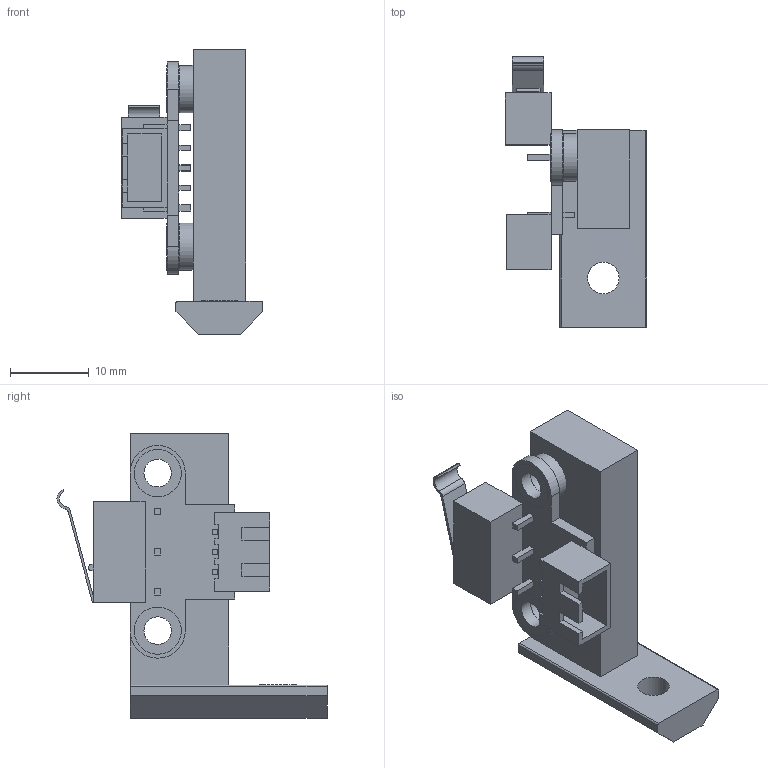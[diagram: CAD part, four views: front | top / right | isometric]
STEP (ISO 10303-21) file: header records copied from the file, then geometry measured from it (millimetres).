
FILE_DESCRIPTION(/* description */ ('STEP AP242 Edition 2','CAx-IF Rec.Pracs.---Representation and Presentation of Product Manufacturing Information (PMI)---4.0---2014-10-13','CAx-IF Rec.Pracs.---3D Tessellated Geometry---0.4---2014-09-14','2;1','CAx-IF Rec.Pracs.---User Defined Attributes---1.5---2016-08-15'),/* implementation_level */ '2;1');
FILE_NAME(/* name */ 'Rear Y-Axis Limit Full',/* time_stamp */ '2025-11-29T19:52:10Z',/* author */ (''),/* organization */ (''),/* preprocessor_version */ 'ST-DEVELOPER v20',/* originating_system */ 'ONSHAPE BY PTC INC, 1.207',/* authorisation */ ' ');
FILE_SCHEMA (('AP242_MANAGED_MODEL_BASED_3D_ENGINEERING_MIM_LF { 1 0 10303 442 3 1 4 }'));
Length unit declared in the file: metre
Products named in the file (3): Rear Y-Axis Limit Full; Limit Switch Mount; Limit Switch
Assembly tree (2 placements, depth 2):
  Rear Y-Axis Limit Full
    Limit Switch Mount
    Limit Switch
Bounding box: 17.94 x 34.3 x 36.13 mm (x, y, z)
Volume: 4495.1 mm3; surface area: 4182.2 mm2
Topology: 2 solids, 2 shells, 188 faces, 497 edges, 333 vertices
Faces by surface type: plane 164, cylinder 24
Full cylindrical faces by diameter (mm): 3.5 x4, 4 x1, 4.9 x2, 6 x6
Entity records: 6532 total; most frequent: CARTESIAN_POINT 990, ORIENTED_EDGE 950, DIRECTION 905, EDGE_CURVE 475, LINE 427, VECTOR 427, VERTEX_POINT 324, EDGE_LOOP 247
